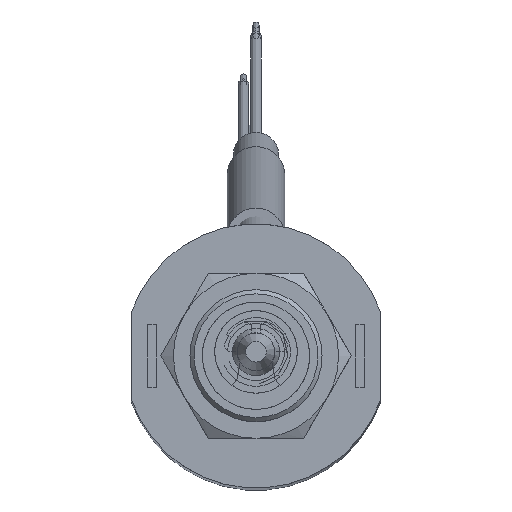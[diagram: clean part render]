
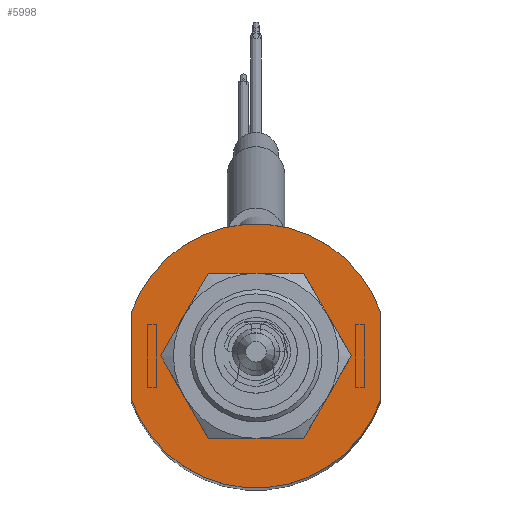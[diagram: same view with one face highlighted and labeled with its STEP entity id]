
A CAD part, top view. The second image highlights one B-rep face of the part: STEP entity #5998.
In plain terms, the highlighted planar face has unit normal (0, 0, 1).
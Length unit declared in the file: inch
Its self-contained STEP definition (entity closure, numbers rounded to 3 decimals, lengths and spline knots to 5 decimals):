
#350=FACE_BOUND('',#1041,.T.);
#444=PLANE('',#6721);
#664=FACE_OUTER_BOUND('',#1040,.T.);
#1040=EDGE_LOOP('',(#4339,#4340,#4341,#4342));
#1041=EDGE_LOOP('',(#4343,#4344));
#1425=LINE('',#9527,#1783);
#1428=LINE('',#9534,#1786);
#1783=VECTOR('',#7819,0.3937);
#1786=VECTOR('',#7828,0.3937);
#2125=CIRCLE('',#6709,0.17717);
#2126=CIRCLE('',#6710,0.17717);
#2130=CIRCLE('',#6716,0.31496);
#2131=CIRCLE('',#6719,0.31496);
#2529=VERTEX_POINT('',#9503);
#2530=VERTEX_POINT('',#9504);
#2536=VERTEX_POINT('',#9520);
#2537=VERTEX_POINT('',#9522);
#2538=VERTEX_POINT('',#9526);
#2539=VERTEX_POINT('',#9530);
#3192=EDGE_CURVE('',#2529,#2530,#2125,.T.);
#3193=EDGE_CURVE('',#2530,#2529,#2126,.T.);
#3201=EDGE_CURVE('',#2537,#2536,#2130,.T.);
#3203=EDGE_CURVE('',#2538,#2537,#1425,.T.);
#3205=EDGE_CURVE('',#2539,#2538,#2131,.T.);
#3207=EDGE_CURVE('',#2536,#2539,#1428,.T.);
#4339=ORIENTED_EDGE('',*,*,#3207,.T.);
#4340=ORIENTED_EDGE('',*,*,#3205,.T.);
#4341=ORIENTED_EDGE('',*,*,#3203,.T.);
#4342=ORIENTED_EDGE('',*,*,#3201,.T.);
#4343=ORIENTED_EDGE('',*,*,#3192,.T.);
#4344=ORIENTED_EDGE('',*,*,#3193,.T.);
#5998=ADVANCED_FACE('',(#664,#350),#444,.T.);
#6709=AXIS2_PLACEMENT_3D('',#9505,#7796,#7797);
#6710=AXIS2_PLACEMENT_3D('',#9506,#7798,#7799);
#6716=AXIS2_PLACEMENT_3D('',#9523,#7814,#7815);
#6719=AXIS2_PLACEMENT_3D('',#9531,#7823,#7824);
#6721=AXIS2_PLACEMENT_3D('',#9535,#7829,#7830);
#7796=DIRECTION('center_axis',(0.,0.,
-1.));
#7797=DIRECTION('ref_axis',(1.,0.,0.));
#7798=DIRECTION('center_axis',(0.,0.,
-1.));
#7799=DIRECTION('ref_axis',(1.,0.,0.));
#7814=DIRECTION('center_axis',(0.,0.,
1.));
#7815=DIRECTION('ref_axis',(-0.944,-0.331,0.));
#7819=DIRECTION('',(0.,-1.,0.));
#7823=DIRECTION('center_axis',(0.,0.,
1.));
#7824=DIRECTION('ref_axis',(0.944,0.331,0.));
#7828=DIRECTION('',(0.,1.,0.));
#7829=DIRECTION('center_axis',(0.,0.,
1.));
#7830=DIRECTION('ref_axis',(1.,0.,0.));
#9503=CARTESIAN_POINT('',(0.17717,0.,1.65354));
#9504=CARTESIAN_POINT('',(-0.17717,0.,1.65354));
#9505=CARTESIAN_POINT('Origin',(0.,0.,
1.65354));
#9506=CARTESIAN_POINT('Origin',(0.,0.,
1.65354));
#9520=CARTESIAN_POINT('',(0.29724,-0.10414,1.65354));
#9522=CARTESIAN_POINT('',(-0.29724,-0.10414,1.65354));
#9523=CARTESIAN_POINT('Origin',(0.,0.,
1.65354));
#9526=CARTESIAN_POINT('',(-0.29724,0.10414,1.65354));
#9527=CARTESIAN_POINT('',(-0.29724,0.10414,1.65354));
#9530=CARTESIAN_POINT('',(0.29724,0.10414,1.65354));
#9531=CARTESIAN_POINT('Origin',(0.,0.,
1.65354));
#9534=CARTESIAN_POINT('',(0.29724,-0.10414,1.65354));
#9535=CARTESIAN_POINT('Origin',(0.,0.,
1.65354));
